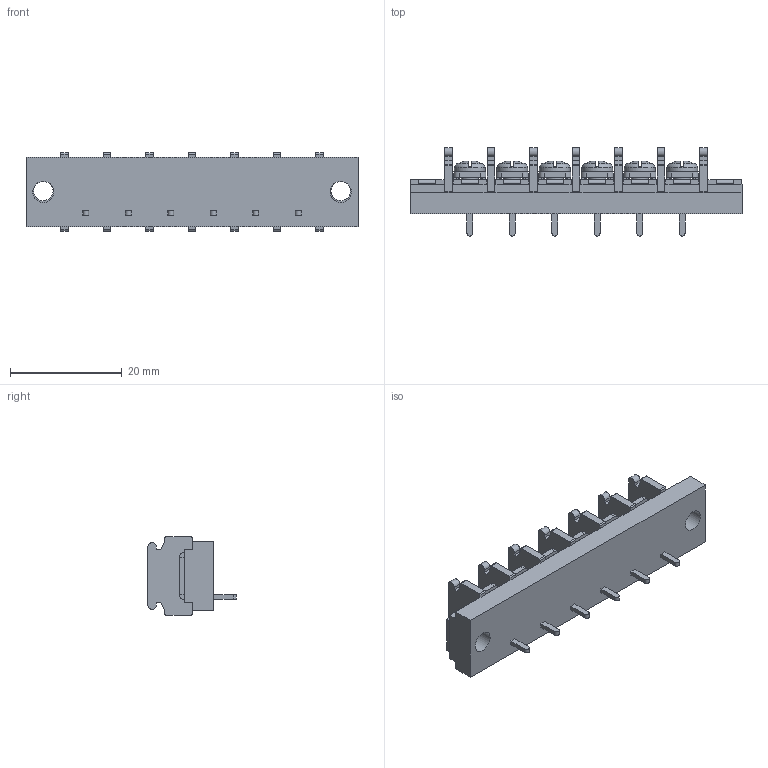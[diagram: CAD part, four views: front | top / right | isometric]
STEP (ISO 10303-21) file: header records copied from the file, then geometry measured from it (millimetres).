
FILE_DESCRIPTION(/* description */ ('Alibre Inc.'),/* implementation_level */ '2;1');
FILE_NAME(/* name */ 'export0',/* time_stamp */ '2015-10-23T19:36:49+09:00',/* author */ (''),/* organization */ (''),/* preprocessor_version */ 'ST-DEVELOPER v14',/* originating_system */ 'Alibre',/* authorisation */ '');
FILE_SCHEMA (('CONFIG_CONTROL_DESIGN'));
Length unit declared in the file: centimetre
Products named in the file (1): ID_1
Bounding box: 59.54 x 15.8 x 14 mm (x, y, z)
Volume: 5211.1 mm3; surface area: 4970.1 mm2
Topology: 1 solids, 17 shells, 1136 faces, 3082 edges, 2026 vertices
Faces by surface type: plane 874, cylinder 110, bspline 104, cone 24, torus 12, sphere 12
Full cylindrical faces by diameter (mm): 3 x6, 3.5 x2, 3.8 x2, 5.5 x6
Entity records: 34003 total; most frequent: CARTESIAN_POINT 7511, ORIENTED_EDGE 6052, DIRECTION 4160, EDGE_CURVE 3026, VECTOR 2228, LINE 2228, VERTEX_POINT 1998, AXIS2_PLACEMENT_3D 1365
